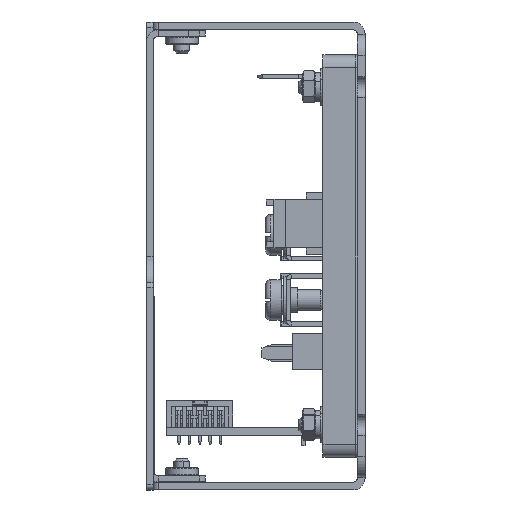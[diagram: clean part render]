
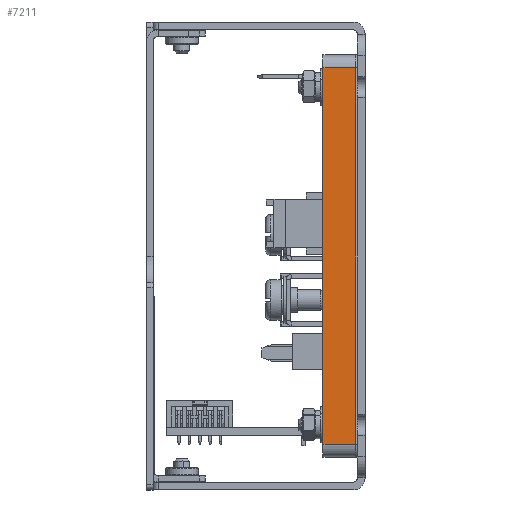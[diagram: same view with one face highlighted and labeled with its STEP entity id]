
A CAD part, left-side view. The second image highlights one B-rep face of the part: STEP entity #7211.
In plain terms, the highlighted planar face has unit normal (-1, 0, 0).
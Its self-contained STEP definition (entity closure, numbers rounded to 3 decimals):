
#2268 = DIRECTION ( 'NONE',  ( 0., 0., -1. ) ) ;
#3703 = CARTESIAN_POINT ( 'NONE',  ( -63.8, 6.6, -38.6 ) ) ;
#7211 = ADVANCED_FACE ( 'NONE', ( #71777 ), #103534, .F. ) ;
#10051 = DIRECTION ( 'NONE',  ( 0., -1., 0. ) ) ;
#13479 = VERTEX_POINT ( 'NONE', #26315 ) ;
#21134 = ORIENTED_EDGE ( 'NONE', *, *, #74479, .T. ) ;
#21188 = CARTESIAN_POINT ( 'NONE',  ( -63.8, 6.6, -36.1 ) ) ;
#26315 = CARTESIAN_POINT ( 'NONE',  ( -63.8, 6.6, -36.1 ) ) ;
#28936 = EDGE_CURVE ( 'NONE', #13479, #53647, #141564, .T. ) ;
#34958 = EDGE_CURVE ( 'NONE', #138620, #53647, #96467, .T. ) ;
#35477 = ORIENTED_EDGE ( 'NONE', *, *, #34958, .T. ) ;
#41902 = VECTOR ( 'NONE', #63965, 1000. ) ;
#50803 = CARTESIAN_POINT ( 'NONE',  ( -63.8, 6.6, -38.6 ) ) ;
#53647 = VERTEX_POINT ( 'NONE', #108159 ) ;
#62175 = CARTESIAN_POINT ( 'NONE',  ( -63.8, 0.3, -38.6 ) ) ;
#63773 = VECTOR ( 'NONE', #10051, 1000. ) ;
#63965 = DIRECTION ( 'NONE',  ( 0., 1., 0. ) ) ;
#69858 = VECTOR ( 'NONE', #107213, 1000. ) ;
#71777 = FACE_OUTER_BOUND ( 'NONE', #90823, .T. ) ;
#74479 = EDGE_CURVE ( 'NONE', #143368, #138620, #87254, .T. ) ;
#87254 = LINE ( 'NONE', #62175, #69858 ) ;
#90823 = EDGE_LOOP ( 'NONE', ( #127785, #21134, #35477, #123885 ) ) ;
#93930 = DIRECTION ( 'NONE',  ( 1., 0., 0. ) ) ;
#96467 = LINE ( 'NONE', #129642, #41902 ) ;
#96535 = CARTESIAN_POINT ( 'NONE',  ( -63.8, 0.3, 36.1 ) ) ;
#103534 = PLANE ( 'NONE',  #135448 ) ;
#107213 = DIRECTION ( 'NONE',  ( 0., 0., 1. ) ) ;
#108159 = CARTESIAN_POINT ( 'NONE',  ( -63.8, 6.6, 36.1 ) ) ;
#108372 = DIRECTION ( 'NONE',  ( 0., 0., 1. ) ) ;
#109260 = EDGE_CURVE ( 'NONE', #13479, #143368, #125312, .T. ) ;
#113250 = VECTOR ( 'NONE', #108372, 1000. ) ;
#117710 = CARTESIAN_POINT ( 'NONE',  ( -63.8, 0.3, -36.1 ) ) ;
#123885 = ORIENTED_EDGE ( 'NONE', *, *, #28936, .F. ) ;
#125312 = LINE ( 'NONE', #21188, #63773 ) ;
#127785 = ORIENTED_EDGE ( 'NONE', *, *, #109260, .T. ) ;
#129642 = CARTESIAN_POINT ( 'NONE',  ( -63.8, 6.6, 36.1 ) ) ;
#135448 = AXIS2_PLACEMENT_3D ( 'NONE', #3703, #93930, #2268 ) ;
#138620 = VERTEX_POINT ( 'NONE', #96535 ) ;
#141564 = LINE ( 'NONE', #50803, #113250 ) ;
#143368 = VERTEX_POINT ( 'NONE', #117710 ) ;
